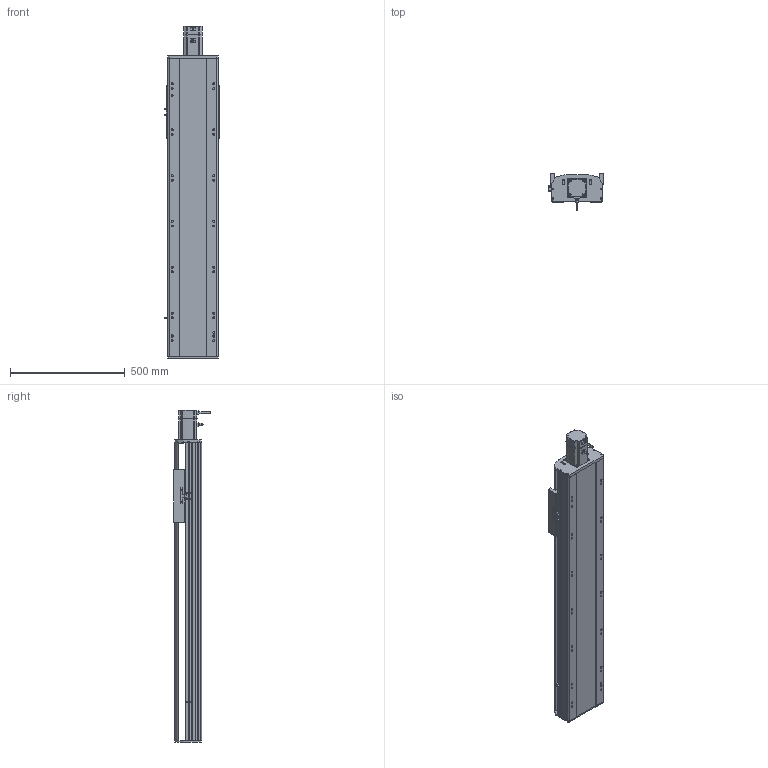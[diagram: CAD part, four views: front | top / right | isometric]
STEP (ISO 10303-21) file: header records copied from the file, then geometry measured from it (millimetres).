
FILE_DESCRIPTION (( 'STEP AP214' ), '1' );
FILE_NAME ('RTH22-XX-900-E-M75-C4.STEP', '2025-10-24T10:46:32', ( 'Microsoft' ), ( 'Microsoft' ), 'SwSTEP 2.0', 'SolidWorks 2018', '' );
FILE_SCHEMA (( 'AUTOMOTIVE_DESIGN' ));
Length unit declared in the file: millimetre
Products named in the file (9): N_RTH22-GY-001耜裔^RTH22-XX-XX-E-M75-C4; N_RTH22-E-008萇儂啣^RTH22-XX-XX-E-M75-C4; N_RTH22-E-011菁釱^RTH22-XX-XX-E-M75-C4; RTH22-XX-900-E-M75-C4; N_RTH22-E-007奻裔^RTH22-XX-XX-E-M75-C4; N_OMRON EE-SX672 传感器^RTH22-XX-XX-E-M75-C4; N_RTH22-GY-013外置感应片^RTH22-XX-XX-E-M75-C4; N_750W萇儂^RTH22-XX-XX-E-M75-C4; N_RTH22-E-004-SFS25賑釱^RTH22-XX-XX-E-M75-C4
Assembly tree (10 placements, depth 2):
  RTH22-XX-900-E-M75-C4
    N_RTH22-E-011菁釱^RTH22-XX-XX-E-M75-C4
    N_RTH22-GY-001耜裔^RTH22-XX-XX-E-M75-C4
    N_RTH22-E-008萇儂啣^RTH22-XX-XX-E-M75-C4
    N_RTH22-E-007奻裔^RTH22-XX-XX-E-M75-C4
    N_RTH22-GY-013外置感应片^RTH22-XX-XX-E-M75-C4
    N_RTH22-E-004-SFS25賑釱^RTH22-XX-XX-E-M75-C4
    N_750W萇儂^RTH22-XX-XX-E-M75-C4
    N_OMRON EE-SX672 传感器^RTH22-XX-XX-E-M75-C4  x3
Bounding box: 238.5 x 160.7 x 1449 mm (x, y, z)
Volume: 18256496.3 mm3; surface area: 1894387.9 mm2
Topology: 10 solids, 10 shells, 1541 faces, 4224 edges, 2729 vertices
Faces by surface type: plane 756, cylinder 448, bspline 279, cone 58
Entity records: 38575 total; most frequent: CARTESIAN_POINT 12089, ORIENTED_EDGE 5424, DIRECTION 5098, EDGE_CURVE 2712, VERTEX_POINT 1765, AXIS2_PLACEMENT_3D 1718, LINE 1662, VECTOR 1662
